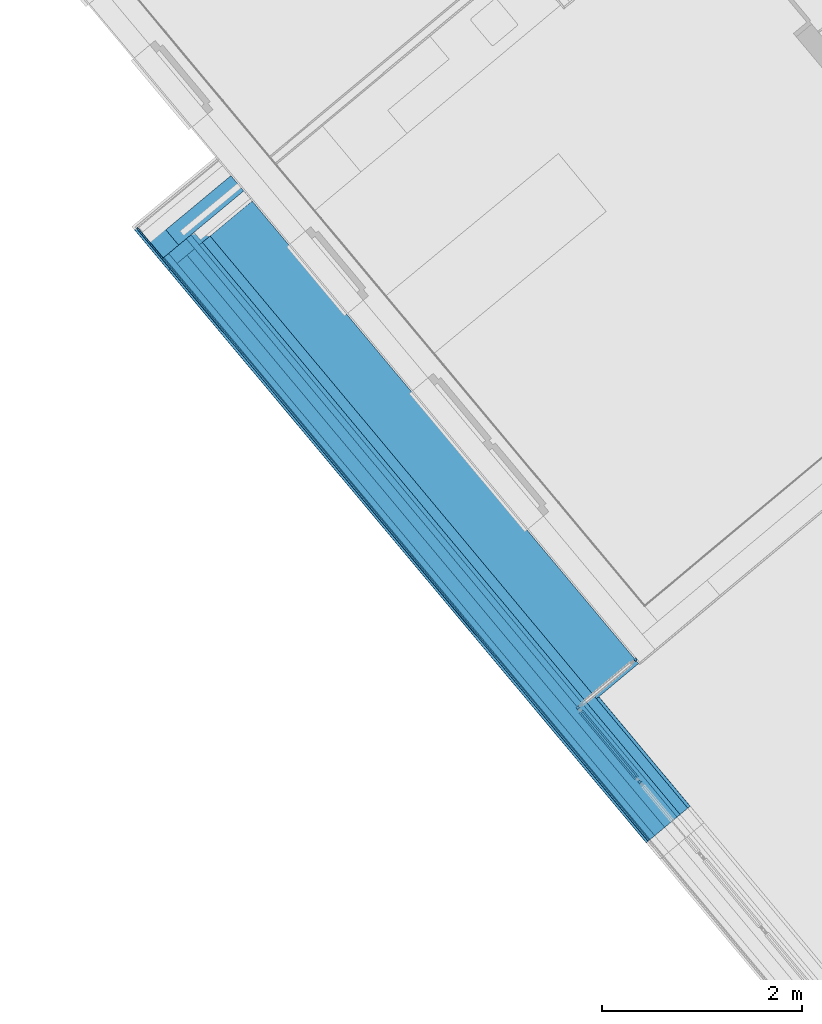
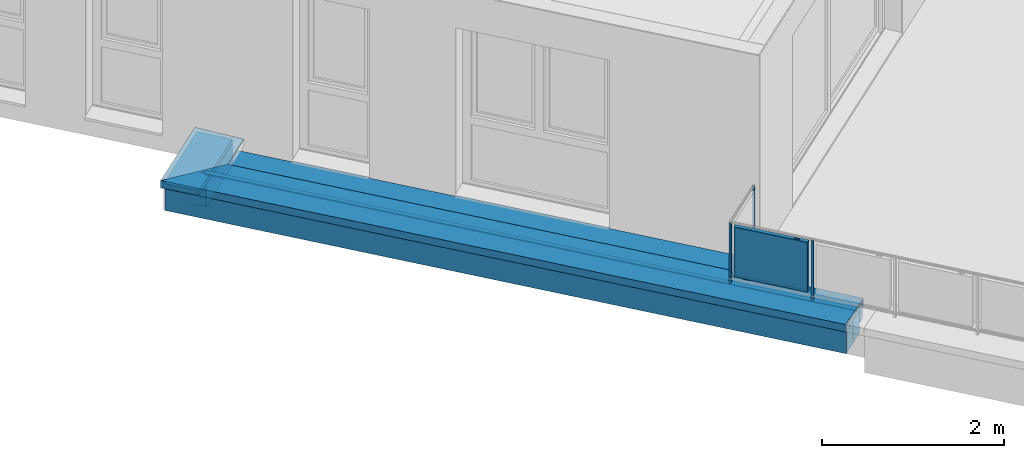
# One storey, part 13 of 58: 18 building element parts, 4 elements without a shape of their own.
"""IFC4 building model written with IfcOpenShell, lengths in metres."""

from ifc_helpers import new_model, entity, si_unit, converted_unit, derived_unit, direction, frame, origin_with_axes, place, context, subcontext, project, spatial, polygons, material, type_object, element, aggregate, save


model = new_model("IFC4")

# Units and contexts
model_context = context("Model", 3, precision=1e-05, world=origin_with_axes(), true_north=direction((0.0, 1.0)))
body_context = subcontext(model_context, "Body", "Model", "MODEL_VIEW")
ifc_project = project(units=[si_unit("LENGTHUNIT", "METRE"), si_unit("AREAUNIT", "SQUARE_METRE"), si_unit("VOLUMEUNIT", "CUBIC_METRE"), converted_unit("PLANEANGLEUNIT", "DEGREE", entity("IfcPlaneAngleMeasure", 0.0174532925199), si_unit("PLANEANGLEUNIT", "RADIAN"), dimensions=[0, 0, 0, 0, 0, 0, 0]), converted_unit("TIMEUNIT", "Year", entity("IfcTimeMeasure", 31556926.0), si_unit("TIMEUNIT", "SECOND"), dimensions=[0, 0, 1, 0, 0, 0, 0]), si_unit("MASSUNIT", "GRAM", prefix="KILO"), si_unit("THERMODYNAMICTEMPERATUREUNIT", "DEGREE_CELSIUS"), si_unit("LUMINOUSINTENSITYUNIT", "LUMEN"), si_unit("ENERGYUNIT", "JOULE", prefix="MEGA"), derived_unit("THERMALCONDUCTANCEUNIT", [(si_unit("POWERUNIT", "WATT"), 1), (si_unit("LENGTHUNIT", "METRE"), -1), (si_unit("THERMODYNAMICTEMPERATUREUNIT", "KELVIN"), -1)]), derived_unit("SPECIFICHEATCAPACITYUNIT", [(si_unit("ENERGYUNIT", "JOULE"), 1), (si_unit("MASSUNIT", "GRAM", prefix="KILO"), -1), (si_unit("THERMODYNAMICTEMPERATUREUNIT", "KELVIN"), -1)]), derived_unit("MASSDENSITYUNIT", [(si_unit("MASSUNIT", "GRAM", prefix="KILO"), 1), (si_unit("VOLUMEUNIT", "CUBIC_METRE"), -1)])], contexts=[model_context])

# Site, building, storey
site_placement = place(None, frame((-0.00153261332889, -0.00661245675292, 0.0), z_axis=(0.0, 0.0, 1.0), x_axis=(1.0, 0.0, 0.0)))
site = spatial("IfcSite", under=ifc_project, at=site_placement, Name="Site", CompositionType="ELEMENT")
building_placement = place(site_placement, origin_with_axes())
building = spatial("IfcBuilding", under=site, at=building_placement, Name="Building", CompositionType="ELEMENT")
storey_placement = place(building_placement, frame((0.0, 0.0, 5.7), z_axis=(0.0, 0.0, 1.0), x_axis=(1.0, 0.0, 0.0)))
storey = spatial("IfcBuildingStorey", under=building, at=storey_placement, Name="DG1", CompositionType="ELEMENT", Elevation=5.7)

# Wall, building element parts
wall_type = type_object("IfcWallType", Name="Bauteil - Attika Terrasse 1.DG 574 x 410", PredefinedType="NOTDEFINED")
wall_1_placement = place(storey_placement, frame((-5.34189117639, 15.0197766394, -0.2), z_axis=(0.0, 0.0, 1.0), x_axis=(-0.768971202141, -0.639283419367, 0.0)))
wall_1 = element("IfcWall", 1, at=wall_1_placement, inside=storey, type_object=wall_type, Name="Wand-003", PredefinedType="NOTDEFINED")
ifc_material_1 = material(Name="Holzwerkstoff")
building_element_part_1_placement = place(wall_1_placement, origin_with_axes())
building_element_part_1 = element("IfcBuildingElementPart", 2, at=building_element_part_1_placement, material=ifc_material_1, Name="Holzwerkstoff", PredefinedType="NOTDEFINED", context=body_context, shape_type="Tessellation", body=[
    polygons([(1.08651749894, -0.239276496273, 0.608570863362), (1.08603229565, 0.330698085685, 0.587938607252), (0.0, 0.330698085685, 0.587938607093), (0.0, -0.239276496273, 0.608570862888), (1.08723952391, -0.239996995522, 0.587938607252), (0.0, 0.329999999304, 0.567947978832), (1.08603529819, 0.33069508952, 0.587852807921), (1.03602023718, 0.330634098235, 0.586106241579), (0.976160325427, 0.330561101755, 0.584015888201), (0.74603542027, 0.330280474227, 0.575979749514), (0.685925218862, 0.330207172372, 0.573880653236), (0.516035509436, 0.329999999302, 0.567947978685), (0.0, 0.160110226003, 0.573880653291), (0.0, 0.100000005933, 0.575979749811), (0.0, -0.130124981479, 0.584015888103), (0.0, -0.189984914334, 0.586106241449), (0.0, -0.239999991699, 0.587852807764), (1.08724252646, -0.239999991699, 0.587852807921), (1.03712153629, -0.189984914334, 0.586106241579), (0.977134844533, -0.130124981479, 0.584015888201), (0.746522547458, 0.100000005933, 0.575979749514), (0.686285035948, 0.160110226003, 0.573880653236)], [[[1, 2, 3, 4]], [[5, 2, 1]], [[6, 3, 2, 7, 8, 9, 10, 11, 12]], [[4, 3, 6, 13, 14, 15, 16, 17]], [[5, 1, 4, 17, 18]], [[2, 5, 18, 7]], [[7, 18, 19, 8]], [[20, 9, 8, 19]], [[9, 20, 21, 10]], [[21, 22, 11, 10]], [[22, 12, 11]], [[12, 22, 13, 6]], [[21, 14, 13, 22]], [[20, 15, 14, 21]], [[20, 19, 16, 15]], [[17, 16, 19, 18]]], closed=True),
])
ifc_material_2 = material(Name="Stahlbeton")
building_element_part_2_placement = place(wall_1_placement, origin_with_axes())
building_element_part_2 = element("IfcBuildingElementPart", 3, at=building_element_part_2_placement, material=ifc_material_2, Name="Stahlbeton", PredefinedType="NOTDEFINED", context=body_context, shape_type="Tessellation", body=[
    polygons([(0.846734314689, 1.82835613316e-09, 0.499999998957), (0.846311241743, 0.199999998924, 0.499999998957), (0.0, 0.199999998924, 0.500000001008), (0.0, 1.82835613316e-09, 0.500000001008), (0.846311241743, 0.199999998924, 0.498822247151), (0.846734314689, 1.82835613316e-09, 0.498822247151), (0.846311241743, 0.199999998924, 0.49100648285), (0.846311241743, 0.199999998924, 0.488695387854), (0.846311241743, 0.199999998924, 0.335), (0.0, 0.199999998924, 0.335000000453), (0.0, 1.82835613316e-09, 0.2), (0.0, 0.199999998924, 0.2), (0.846734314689, 1.82835613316e-09, 0.2), (0.846734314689, 1.82835613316e-09, 0.335), (0.846734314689, 1.82835613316e-09, 0.488695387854), (0.846734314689, 1.82835613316e-09, 0.49100648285), (0.846311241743, 0.199999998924, 0.2)], [[[1, 2, 3, 4]], [[5, 2, 1, 6]], [[2, 5, 7, 8, 9, 10, 3]], [[11, 4, 3, 10, 12]], [[6, 1, 4, 11, 13, 14, 15, 16]], [[5, 6, 16, 7]], [[7, 16, 15, 8]], [[8, 15, 14, 9]], [[9, 17, 12, 10]], [[17, 13, 11, 12]], [[9, 14, 13, 17]]], closed=True),
])
ifc_material_3 = material(Name="Brettschichtholz")
building_element_part_3_placement = place(wall_1_placement, origin_with_axes())
building_element_part_3 = element("IfcBuildingElementPart", 4, at=building_element_part_3_placement, material=ifc_material_3, Name="Brettschichtholz", PredefinedType="NOTDEFINED", context=body_context, shape_type="Tessellation", body=[
    polygons([(1.06139631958, 0.159999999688, 0.559999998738), (1.06131170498, 0.200000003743, 0.559999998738), (0.0, 0.200000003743, 0.559999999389), (0.0, 0.159999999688, 0.559999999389), (1.06131169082, 0.200000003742, 0.519224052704), (1.06152324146, 0.100000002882, 0.559999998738), (1.06201003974, -0.130124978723, 0.559999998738), (1.06213696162, -0.190124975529, 0.559999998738), (1.06218958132, -0.214999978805, 0.559999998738), (1.06218956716, -0.214999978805, 0.519224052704), (1.06131168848, 0.200000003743, 0.511361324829), (1.06131168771, 0.200000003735, 0.50905023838), (1.06131169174, 0.200000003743, 0.499999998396), (0.0, 0.200000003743, 0.500000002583), (0.0, -0.214999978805, 0.499999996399), (0.0, -0.214999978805, 0.559999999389), (0.0, -0.190124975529, 0.559999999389), (0.0, -0.130124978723, 0.559999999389), (0.0, 0.100000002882, 0.559999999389), (1.06218956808, -0.214999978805, 0.499999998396), (1.06218956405, -0.214999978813, 0.50905023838), (1.06218956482, -0.214999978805, 0.511361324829)], [[[1, 2, 3, 4]], [[5, 2, 1, 6, 7, 8, 9, 10]], [[2, 5, 11, 12, 13, 14, 3]], [[15, 16, 17, 18, 19, 4, 3, 14]], [[6, 1, 4, 19]], [[7, 6, 19, 18]], [[8, 7, 18, 17]], [[9, 8, 17, 16]], [[10, 9, 16, 15, 20, 21, 22]], [[5, 10, 22, 11]], [[11, 22, 21, 12]], [[12, 21, 20, 13]], [[14, 13, 20, 15]]], closed=True),
])
aggregate(wall_1, [building_element_part_1, building_element_part_2, building_element_part_3])

wall_2_placement = place(storey_placement, frame((-5.99300548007, 14.4784734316, -0.2), z_axis=(0.0, 0.0, 1.0), x_axis=(0.640908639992, -0.767617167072, 0.0)))
wall_2 = element("IfcWall", 5, at=wall_2_placement, inside=storey, type_object=wall_type, Name="Wand-004", PredefinedType="NOTDEFINED")
ifc_material_4 = material(Name="Stahl")
building_element_part_4_placement = place(wall_2_placement, origin_with_axes())
building_element_part_4 = element("IfcBuildingElementPart", 6, at=building_element_part_4_placement, material=ifc_material_4, Name="Stahl", PredefinedType="NOTDEFINED", context=body_context, shape_type="Tessellation", body=[
    polygons([(-0.240659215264, -0.240150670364, 0.575979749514), (-0.240662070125, -0.241500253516, 0.575979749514), (-0.240662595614, -0.241500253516, 0.584015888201), (-0.240659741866, -0.240151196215, 0.584015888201), (-0.240661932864, -0.241500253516, 0.573880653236), (-0.240659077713, -0.240150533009, 0.573880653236), (-0.238743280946, -0.241500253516, 0.511361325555), (-0.240097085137, -0.241500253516, 0.510007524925), (7.77960617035, -0.241500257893, 0.510007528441), (7.77960617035, -0.241500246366, 0.610006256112), (-0.24201164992, -0.241500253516, 0.610006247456), (-0.203241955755, -0.241500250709, 0.608602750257), (-0.240664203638, -0.241500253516, 0.608602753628), (-0.240664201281, -0.241500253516, 0.608570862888), (-0.240662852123, -0.241500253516, 0.587938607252), (-0.240662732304, -0.241500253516, 0.586106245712), (-0.240661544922, -0.241500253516, 0.567947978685), (-0.240661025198, -0.241500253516, 0.560000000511), (-0.240658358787, -0.241500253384, 0.519224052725), (-0.240657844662, -0.241500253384, 0.511361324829), (-0.240659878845, -0.240151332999, 0.586106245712), (-0.238740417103, -0.24014644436, 0.511361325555), (-0.240654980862, -0.24014644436, 0.511361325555), (-0.240655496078, -0.240146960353, 0.519224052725), (-0.240658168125, -0.240149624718, 0.560000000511), (-0.24065868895, -0.240150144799, 0.567947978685), (-0.240659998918, -0.240151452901, 0.587938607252), (-0.240661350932, -0.240152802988, 0.608570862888), (-0.240661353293, -0.240152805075, 0.608602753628), (-0.203239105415, -0.240152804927, 0.608602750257), (7.7796065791, -0.240152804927, 0.608602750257), (7.77960658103, -0.240146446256, 0.51136132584), (-0.238736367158, -0.238231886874, 0.511361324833), (-0.241051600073, -0.240542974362, 0.509050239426), (7.77960646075, -0.240542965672, 0.50905023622), (7.77960924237, -0.231373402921, 0.518219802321), (7.77960896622, -0.232283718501, 0.519224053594), (7.77960684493, -0.239276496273, 0.608570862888), (7.77978015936, 0.330698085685, 0.587937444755), (7.77978015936, 0.330698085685, 0.491006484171), (7.77978015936, 0.32288233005, 0.498822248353), (7.77978015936, 0.321878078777, 0.497911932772), (7.77978015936, 0.331094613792, 0.488695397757), (7.77978015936, 0.332051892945, 0.489652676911), (7.77978015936, 0.332051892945, 0.589243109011), (0.332755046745, 0.332051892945, 0.589243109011), (-0.202277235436, -0.201849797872, 0.608570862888), (-0.203159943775, -0.202730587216, 0.608602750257), (-0.202356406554, -0.239276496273, 0.608570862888), (-0.232775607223, -0.23228372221, 0.519224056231), (-0.231867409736, -0.233287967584, 0.518219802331), (-0.231863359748, -0.23137340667, 0.518219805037), (0.332675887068, 0.294630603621, 0.589243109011), (0.332752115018, 0.330665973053, 0.587938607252), (0.332752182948, 0.330698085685, 0.587937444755), (0.332752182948, 0.330698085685, 0.498822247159), (0.332752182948, 0.330698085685, 0.491006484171), (0.332752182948, 0.330698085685, 0.586106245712), (0.332752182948, 0.330698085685, 0.584015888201), (0.332752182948, 0.330698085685, 0.575979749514), (0.332752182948, 0.330698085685, 0.573880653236), (0.332752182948, 0.330698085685, 0.567947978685), (0.332752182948, 0.330698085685, 0.559999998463), (0.332752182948, 0.330698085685, 0.519224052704), (0.332752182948, 0.330698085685, 0.511361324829), (0.332752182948, 0.330698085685, 0.50905023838), (0.332752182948, 0.330698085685, 0.499999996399), (0.331398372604, 0.33069808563, 0.49100648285), (0.323566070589, 0.322882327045, 0.498822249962), (0.324474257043, 0.32187807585, 0.497911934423), (0.331394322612, 0.328783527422, 0.49100648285), (0.332748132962, 0.328783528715, 0.491006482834), (0.332750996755, 0.330137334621, 0.489652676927), (0.331795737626, 0.331094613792, 0.488695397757), (0.332755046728, 0.332051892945, 0.489652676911), (0.332755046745, 0.332051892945, 0.49100648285), (0.332755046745, 0.332051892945, 0.498822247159), (0.332755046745, 0.332051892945, 0.499999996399), (0.332755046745, 0.332051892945, 0.50905023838), (0.332755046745, 0.332051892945, 0.511361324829), (0.332755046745, 0.332051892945, 0.519224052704), (0.332755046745, 0.332051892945, 0.559999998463), (0.332755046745, 0.332051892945, 0.567947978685), (0.332755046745, 0.332051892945, 0.573880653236), (0.332755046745, 0.332051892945, 0.575979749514), (0.332755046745, 0.332051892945, 0.584015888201), (0.332755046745, 0.332051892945, 0.586106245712), (0.332755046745, 0.332051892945, 0.587938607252)], [[[1, 2, 3, 4]], [[5, 2, 1, 6]], [[7, 8, 9, 10, 11, 12, 13, 14, 15, 16, 3, 2, 5, 17, 18, 19, 20]], [[3, 16, 21, 4]], [[22, 23, 24, 25, 26, 6, 1, 4, 21, 27, 28, 29, 30, 31, 32]], [[17, 5, 6, 26]], [[8, 7, 22, 33, 34]], [[8, 34, 35, 9]], [[9, 35, 36, 37, 32, 31, 38, 39, 40, 41, 42, 43, 44, 45, 10]], [[46, 47, 48, 11, 10, 45]], [[30, 12, 11, 48]], [[29, 13, 12, 30]], [[14, 13, 29, 28]], [[15, 14, 28, 27]], [[16, 15, 27, 21]], [[18, 17, 26, 25]], [[19, 18, 25, 24]], [[20, 19, 24, 23]], [[7, 20, 23, 22]], [[49, 38, 31, 30]], [[22, 32, 37, 50, 51]], [[33, 22, 51, 52]], [[34, 33, 52, 36, 35]], [[50, 37, 36, 52]], [[53, 54, 55, 39, 38, 49]], [[56, 57, 40, 39, 55, 58, 59, 60, 61, 62, 63, 64, 65, 66, 67]], [[57, 68, 69, 41, 40]], [[69, 70, 42, 41]], [[70, 71, 72, 73, 74, 43, 42]], [[74, 75, 44, 43]], [[76, 77, 78, 79, 80, 81, 82, 83, 84, 85, 86, 87, 88, 46, 45, 44, 75]], [[53, 49, 47, 46]], [[49, 30, 48, 47]], [[51, 50, 52]], [[54, 53, 46, 88, 55]], [[76, 57, 56, 77]], [[58, 55, 88, 87]], [[86, 59, 58, 87]], [[60, 59, 86, 85]], [[61, 60, 85, 84]], [[62, 61, 84, 83]], [[63, 62, 83, 82]], [[64, 63, 82, 81]], [[65, 64, 81, 80]], [[66, 65, 80, 79]], [[67, 66, 79, 78]], [[56, 67, 78, 77]], [[72, 71, 68, 57]], [[70, 69, 68, 71]], [[73, 72, 57, 76, 75]], [[74, 73, 75]]], closed=True),
])
building_element_part_5_placement = place(wall_2_placement, origin_with_axes())
building_element_part_5 = element("IfcBuildingElementPart", 7, at=building_element_part_5_placement, material=ifc_material_1, Name="Holzwerkstoff", PredefinedType="NOTDEFINED", context=body_context, shape_type="Tessellation", body=[
    polygons([(0.33023295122, -0.189984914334, 0.586106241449), (0.33028658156, -0.130124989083, 0.584015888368), (7.77963995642, -0.130124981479, 0.584015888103), (7.77962179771, -0.189984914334, 0.586106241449), (0.331334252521, 0.330634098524, 0.586106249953), (0.331261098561, 0.330561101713, 0.584015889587), (0.330492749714, 0.100000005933, 0.575979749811), (7.77970976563, 0.100000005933, 0.575979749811), (7.77960662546, -0.239999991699, 0.587852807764), (7.77972800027, 0.160110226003, 0.573880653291), (7.77978015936, 0.329999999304, 0.567947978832), (7.77978015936, 0.330698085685, 0.587938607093), (7.77960684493, -0.239276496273, 0.608570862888), (0.33018813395, -0.239999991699, 0.587852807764), (0.330191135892, -0.23999699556, 0.587938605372), (0.331398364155, 0.330698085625, 0.587938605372), (0.330698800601, 0.329999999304, 0.567947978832), (0.330906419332, 0.330207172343, 0.573880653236), (0.330979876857, 0.330280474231, 0.57597974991), (0.330546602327, 0.160110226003, 0.573880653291), (-0.239783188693, -0.239276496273, 0.608570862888)], [[[1, 2, 3, 4]], [[2, 1, 5, 6]], [[2, 7, 8, 3]], [[9, 4, 3, 8, 10, 11, 12, 13]], [[14, 1, 4, 9]], [[1, 14, 15, 16, 5]], [[6, 5, 16, 12, 11, 17, 18, 19]], [[7, 2, 6, 19]], [[7, 20, 10, 8]], [[20, 17, 11, 10]], [[21, 13, 12, 16]], [[15, 14, 9, 13, 21]], [[15, 21, 16]], [[17, 20, 18]], [[20, 7, 19, 18]]], closed=True),
])
ifc_material_5 = material(Name="EPS 1")
building_element_part_6_placement = place(wall_2_placement, origin_with_axes())
building_element_part_6 = element("IfcBuildingElementPart", 8, at=building_element_part_6_placement, material=ifc_material_5, Name="EPS 1", PredefinedType="NOTDEFINED", context=body_context, shape_type="Tessellation", body=[
    polygons([(0.300423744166, 0.200000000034, 0.335000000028), (0.300423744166, 0.200000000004, 0.488695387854), (0.300635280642, 0.300000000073, 0.488695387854), (0.300635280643, 0.300000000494, 0.335000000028), (7.77974010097, 0.200000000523, 0.335000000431), (7.77974010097, 0.2, 0.560000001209), (0.300423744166, 0.199999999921, 0.560000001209), (0.300423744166, 0.199999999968, 0.519224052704), (0.300423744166, 0.199999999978, 0.511361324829), (0.300423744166, 0.19999999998, 0.50905023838), (0.300423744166, 0.199999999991, 0.499999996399), (0.300423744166, 0.199999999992, 0.498822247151), (0.300423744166, 0.200000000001, 0.49100648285), (0.300635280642, 0.300000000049, 0.49100648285), (0.300635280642, 0.299999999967, 0.498822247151), (0.300635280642, 0.299999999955, 0.499999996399), (0.300635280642, 0.29999999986, 0.50905023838), (0.300635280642, 0.299999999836, 0.511361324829), (0.300635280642, 0.299999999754, 0.519224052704), (0.300635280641, 0.299999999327, 0.560000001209), (7.77977043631, 0.30000000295, 0.560000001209), (7.77977043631, 0.300000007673, 0.48869539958), (7.77977043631, 0.300000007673, 0.335000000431)], [[[1, 2, 3, 4]], [[2, 1, 5, 6, 7, 8, 9, 10, 11, 12, 13]], [[2, 13, 14, 3]], [[3, 14, 15, 16, 17, 18, 19, 20, 21, 22, 23, 4]], [[1, 4, 23, 5]], [[6, 5, 23, 22, 21]], [[20, 7, 6, 21]], [[8, 7, 20, 19]], [[9, 8, 19, 18]], [[10, 9, 18, 17]], [[11, 10, 17, 16]], [[12, 11, 16, 15]], [[13, 12, 15, 14]]], closed=True),
])
ifc_material_6 = material(Name="Vollholz")
building_element_part_7_placement = place(wall_2_placement, origin_with_axes())
building_element_part_7 = element("IfcBuildingElementPart", 9, at=building_element_part_7_placement, material=ifc_material_6, Name="Vollholz", PredefinedType="NOTDEFINED", context=body_context, shape_type="Tessellation", body=[
    polygons([(0.160322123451, 0.1, 0.573880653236), (0.160449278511, 0.160110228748, 0.573880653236), (0.160402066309, 0.160063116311, 0.567947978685), (0.160275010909, 0.1, 0.567947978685), (0.100211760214, 0.100000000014, 0.575979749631), (7.77972800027, 0.160110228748, 0.573880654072), (7.77972796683, 0.16, 0.560000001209), (0.160338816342, 0.16, 0.560000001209), (0.160211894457, 0.1, 0.560000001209), (7.77970976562, 0.1, 0.560000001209), (7.77970976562, 0.1, 0.575979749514)], [[[1, 2, 3, 4]], [[5, 2, 1]], [[3, 2, 6, 7, 8]], [[4, 3, 8, 9]], [[5, 1, 4, 9, 10, 11]], [[2, 5, 11, 6]], [[10, 7, 6, 11]], [[9, 8, 7, 10]]], closed=True),
])
building_element_part_8_placement = place(wall_2_placement, origin_with_axes())
building_element_part_8 = element("IfcBuildingElementPart", 10, at=building_element_part_8_placement, material=ifc_material_2, Name="Stahlbeton", PredefinedType="NOTDEFINED", context=body_context, shape_type="Tessellation", body=[
    polygons([(0.20042351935, 0.199999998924, 0.498822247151), (0.20042351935, 0.199999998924, 0.500000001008), (7.77974010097, 0.199999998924, 0.500000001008), (7.77974010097, 0.200000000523, 0.335000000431), (0.20042351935, 0.199999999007, 0.335), (0.20042351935, 0.199999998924, 0.488695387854), (0.20042351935, 0.199999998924, 0.49100648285), (0.200000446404, 1.82835613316e-09, 0.500000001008), (0.200000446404, 1.82835613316e-09, 0.498822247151), (7.77967943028, 1.82835080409e-09, 0.500000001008), (7.77974010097, 0.200000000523, 0.2), (7.77967943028, 1.82835258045e-09, 0.2), (0.20042351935, 0.199999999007, 0.2), (0.200000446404, 1.82835613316e-09, 0.488695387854), (0.200000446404, 1.82835613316e-09, 0.335), (0.200000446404, 1.82835613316e-09, 0.49100648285), (0.200000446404, 1.82835613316e-09, 0.2)], [[[1, 2, 3, 4, 5, 6, 7]], [[8, 2, 1, 9]], [[2, 8, 10, 3]], [[11, 4, 3, 10, 12]], [[13, 5, 4, 11]], [[14, 6, 5, 15]], [[16, 7, 6, 14]], [[9, 1, 7, 16]], [[8, 9, 16, 14, 15, 17, 12, 10]], [[17, 13, 11, 12]], [[15, 5, 13, 17]]], closed=True),
])
building_element_part_9_placement = place(wall_2_placement, origin_with_axes())
building_element_part_9 = element("IfcBuildingElementPart", 11, at=building_element_part_9_placement, material=ifc_material_5, Name="EPS 1", PredefinedType="NOTDEFINED", context=body_context, shape_type="Tessellation", body=[
    polygons([(-2.40415687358e-10, -2.39910313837e-10, 0.498822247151), (-2.40415687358e-10, -2.39910313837e-10, 0.499999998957), (7.77967943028, -2.39913866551e-10, 0.499999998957), (7.77967943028, -2.39912978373e-10, 0.2), (-2.40417463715e-10, -2.39910313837e-10, 0.2), (-2.40415687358e-10, -2.39910313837e-10, 0.335), (-2.40415687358e-10, -2.39910313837e-10, 0.488695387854), (-2.40415687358e-10, -2.39910313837e-10, 0.49100648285), (-0.000423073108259, -0.19999996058, 0.499999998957), (-0.000423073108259, -0.19999996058, 0.498822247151), (7.77961875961, -0.19999996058, 0.499999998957), (7.77961875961, -0.19999996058, 0.2), (-0.000423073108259, -0.19999996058, 0.2), (-0.000423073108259, -0.19999996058, 0.335), (-0.000423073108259, -0.19999996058, 0.488695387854), (-0.000423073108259, -0.19999996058, 0.49100648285)], [[[1, 2, 3, 4, 5, 6, 7, 8]], [[9, 2, 1, 10]], [[2, 9, 11, 3]], [[12, 4, 3, 11]], [[13, 5, 4, 12]], [[14, 6, 5, 13]], [[15, 7, 6, 14]], [[16, 8, 7, 15]], [[10, 1, 8, 16]], [[9, 10, 16, 15, 14, 13, 12, 11]]], closed=True),
])
building_element_part_10_placement = place(wall_2_placement, origin_with_axes())
building_element_part_10 = element("IfcBuildingElementPart", 12, at=building_element_part_10_placement, material=ifc_material_6, Name="Vollholz", PredefinedType="NOTDEFINED", context=body_context, shape_type="Tessellation", body=[
    polygons([(-0.130527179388, -0.189996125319, 0.584015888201), (-0.130400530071, -0.130124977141, 0.584015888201), (-0.130400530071, -0.130124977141, 0.575979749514), (-0.130527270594, -0.190039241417, 0.575979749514), (-0.190387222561, -0.189984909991, 0.586106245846), (7.77963995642, -0.130124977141, 0.584015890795), (7.77963995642, -0.130124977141, 0.560000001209), (-0.130400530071, -0.130124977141, 0.560000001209), (-0.130400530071, -0.130124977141, 0.567947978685), (-0.130400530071, -0.130124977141, 0.573880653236), (-0.130527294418, -0.190050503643, 0.573880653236), (-0.130527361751, -0.190082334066, 0.567947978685), (-0.130527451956, -0.190124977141, 0.560000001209), (7.77962175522, -0.190124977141, 0.560000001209), (7.77962179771, -0.189984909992, 0.586106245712)], [[[1, 2, 3, 4]], [[5, 2, 1]], [[3, 2, 6, 7, 8, 9, 10]], [[4, 3, 10, 11]], [[5, 1, 4, 11, 12, 13, 14, 15]], [[2, 5, 15, 6]], [[14, 7, 6, 15]], [[13, 8, 7, 14]], [[12, 9, 8, 13]], [[11, 10, 9, 12]]], closed=True),
])
ifc_material_7 = material(Name="Zementputz")
building_element_part_11_placement = place(wall_2_placement, origin_with_axes())
building_element_part_11 = element("IfcBuildingElementPart", 13, at=building_element_part_11_placement, material=ifc_material_7, Name="Zementputz", PredefinedType="NOTDEFINED", context=body_context, shape_type="Tessellation", body=[
    polygons([(-0.20042348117, -0.199999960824, 0.498822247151), (-0.20042348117, -0.199999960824, 0.499999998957), (7.77961875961, -0.199999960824, 0.499999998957), (7.77961875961, -0.199999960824, 0.2), (-0.20042348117, -0.199999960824, 0.2), (-0.20042348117, -0.199999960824, 0.335), (-0.20042348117, -0.199999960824, 0.488695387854), (-0.20042348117, -0.199999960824, 0.49100648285), (-0.200455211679, -0.214999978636, 0.499999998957), (-0.200455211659, -0.21499996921, 0.498822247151), (7.7796142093, -0.21499996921, 0.499999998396), (7.7796142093, -0.21499996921, 0.2), (-0.200455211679, -0.214999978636, 0.2), (-0.200455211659, -0.21499996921, 0.335), (-0.200455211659, -0.21499996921, 0.488695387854), (-0.200455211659, -0.21499996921, 0.49100648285)], [[[1, 2, 3, 4, 5, 6, 7, 8]], [[9, 2, 1, 10]], [[2, 9, 11, 3]], [[12, 4, 3, 11]], [[13, 5, 4, 12]], [[14, 6, 5, 13]], [[15, 7, 6, 14]], [[16, 8, 7, 15]], [[10, 1, 8, 16]], [[9, 10, 16, 15, 14, 13, 12, 11]]], closed=True),
])
building_element_part_12_placement = place(wall_2_placement, origin_with_axes())
building_element_part_12 = element("IfcBuildingElementPart", 14, at=building_element_part_12_placement, material=ifc_material_3, Name="Brettschichtholz", PredefinedType="NOTDEFINED", context=body_context, shape_type="Tessellation", body=[
    polygons([(0.199598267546, -0.190124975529, 0.559999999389), (0.199545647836, -0.214999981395, 0.559999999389), (7.7796142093, -0.214999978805, 0.559999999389), (7.77962175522, -0.190124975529, 0.559999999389), (0.199545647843, -0.214999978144, 0.519224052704), (0.199725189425, -0.130124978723, 0.559999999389), (0.200211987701, 0.100000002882, 0.559999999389), (0.20033890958, 0.159999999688, 0.559999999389), (0.200423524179, 0.200000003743, 0.559999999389), (0.200423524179, 0.200000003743, 0.519224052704), (0.199545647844, -0.214999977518, 0.511361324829), (0.199545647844, -0.214999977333, 0.50905023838), (0.199545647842, -0.214999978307, 0.499999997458), (7.7796142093, -0.21499996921, 0.499999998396), (7.7796142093, -0.21499996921, 0.50905023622), (7.77974010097, 0.200000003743, 0.500000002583), (7.77974010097, 0.200000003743, 0.559999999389), (7.77972796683, 0.159999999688, 0.559999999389), (7.77970976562, 0.100000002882, 0.559999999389), (7.77963995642, -0.130124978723, 0.559999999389), (0.200423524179, 0.200000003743, 0.500000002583), (0.200423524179, 0.200000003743, 0.50905023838), (0.200423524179, 0.200000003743, 0.511361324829)], [[[1, 2, 3, 4]], [[5, 2, 1, 6, 7, 8, 9, 10]], [[11, 12, 13, 14, 15, 3, 2, 5]], [[15, 14, 16, 17, 18, 19, 20, 4, 3]], [[6, 1, 4, 20]], [[7, 6, 20, 19]], [[8, 7, 19, 18]], [[9, 8, 18, 17]], [[21, 22, 23, 10, 9, 17, 16]], [[11, 5, 10, 23]], [[12, 11, 23, 22]], [[21, 13, 12, 22]], [[13, 21, 16, 14]]], closed=True),
])
aggregate(wall_2, [building_element_part_4, building_element_part_5, building_element_part_6, building_element_part_7, building_element_part_8, building_element_part_9, building_element_part_10, building_element_part_11, building_element_part_12])

# Covering, building element part
covering_type = type_object("IfcCoveringType", Name="Balkon vor Terrasse Kies 220", PredefinedType="NOTDEFINED")
covering_placement = place(storey_placement, frame((-1.76593456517, 9.72776171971, 0.0), z_axis=(0.0, 0.0, 1.0), x_axis=(1.0, 0.0, 0.0)))
covering = element("IfcCovering", 15, at=covering_placement, inside=storey, type_object=covering_type, Name="Decke-005", PredefinedType="NOTDEFINED")
ifc_material_8 = material(Name="Kies")
building_element_part_13_placement = place(covering_placement, origin_with_axes())
building_element_part_13 = element("IfcBuildingElementPart", 16, at=building_element_part_13_placement, material=ifc_material_8, Name="Kies", PredefinedType="NOTDEFINED", context=body_context, shape_type="Tessellation", body=[
    polygons([(0.498355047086, 0.416092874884, 0.15), (0.498355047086, 0.416092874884, 0.22), (0.0, 0.0, 0.22), (0.0, 0.0, 0.15), (-0.617608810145, 1.75161976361, 0.22), (-0.617608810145, 1.75161976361, 0.15), (-0.606098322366, 1.76123790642, 0.22), (-1.7602754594, 3.14249643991, 0.22), (-1.77178594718, 3.1328782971, 0.22), (-2.41941680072, 3.90792886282, 0.22), (-2.40790631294, 3.91754700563, 0.22), (-2.98499488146, 4.60817627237, 0.22), (-2.99650536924, 4.59855812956, 0.22), (-3.44771470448, 5.13854174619, 0.22), (-3.94509461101, 4.72504524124, 0.22), (-3.94509461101, 4.72504524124, 0.15), (-3.44771470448, 5.13854174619, 0.15), (-2.99650536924, 4.59855812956, 0.15), (-2.98499488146, 4.60817627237, 0.15), (-2.40790631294, 3.91754700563, 0.15), (-2.41941680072, 3.90792886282, 0.15), (-1.77178594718, 3.1328782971, 0.15), (-1.7602754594, 3.14249643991, 0.15), (-0.606098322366, 1.76123790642, 0.15)], [[[1, 2, 3, 4]], [[5, 2, 1, 6]], [[5, 7, 8, 9, 10, 11, 12, 13, 14, 15, 3, 2]], [[16, 4, 3, 15]], [[6, 1, 4, 16, 17, 18, 19, 20, 21, 22, 23, 24]], [[24, 7, 5, 6]], [[7, 24, 23, 8]], [[9, 8, 23, 22]], [[10, 9, 22, 21]], [[20, 11, 10, 21]], [[11, 20, 19, 12]], [[13, 12, 19, 18]], [[14, 13, 18, 17]], [[14, 17, 16, 15]]], closed=True),
])
aggregate(covering, [building_element_part_13])

# Railing, building element parts
railing_type = type_object("IfcRailingType", Name="Geländerart", PredefinedType="NOTDEFINED")
railing_placement = place(storey_placement, frame((-1.26757951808, 10.1438545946, 0.38), z_axis=(0.0, 0.0, 1.0), x_axis=(1.0, 0.0, 0.0)))
railing = element("IfcRailing", 17, at=railing_placement, inside=storey, type_object=railing_type, Name="Geländer - 001", PredefinedType="NOTDEFINED")
ifc_material_9 = material(Name="Aluminium")
building_element_part_14_placement = place(railing_placement, origin_with_axes())
building_element_part_14 = element("IfcBuildingElementPart", 18, at=building_element_part_14_placement, material=ifc_material_9, Name="Aluminium", PredefinedType="NOTDEFINED", context=body_context, shape_type="Tessellation", body=[
    polygons([(-0.049652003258, 0.0399647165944, -0.3), (-0.0336292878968, 0.0207742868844, -0.3), (-0.0336292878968, 0.0207742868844, 0.82), (-0.049652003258, 0.0399647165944, 0.82), (-0.030461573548, 0.0559874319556, -0.3), (-0.0144388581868, 0.0367970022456, -0.3), (-0.0144388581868, 0.0367970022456, 0.82), (-0.030461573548, 0.0559874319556, 0.82)], [[[1, 2, 3, 4]], [[1, 5, 6, 2]], [[2, 6, 7, 3]], [[4, 3, 7, 8]], [[5, 1, 4, 8]], [[6, 5, 8, 7]]], closed=True),
])
building_element_part_15_placement = place(railing_placement, origin_with_axes())
building_element_part_15 = element("IfcBuildingElementPart", 19, at=building_element_part_15_placement, material=ifc_material_9, Name="Aluminium", PredefinedType="NOTDEFINED", context=body_context, shape_type="Tessellation", body=[
    polygons([(-0.624768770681, -0.440219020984, -0.3), (-0.60874605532, -0.459409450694, -0.3), (-0.60874605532, -0.459409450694, 0.82), (-0.624768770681, -0.440219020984, 0.82), (-0.605578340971, -0.424196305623, -0.3), (-0.58955562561, -0.443386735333, -0.3), (-0.58955562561, -0.443386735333, 0.82), (-0.605578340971, -0.424196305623, 0.82)], [[[1, 2, 3, 4]], [[1, 5, 6, 2]], [[2, 6, 7, 3]], [[4, 3, 7, 8]], [[5, 1, 4, 8]], [[6, 5, 8, 7]]], closed=True),
])
ifc_material_10 = material(Name="Profilit")
building_element_part_16_placement = place(railing_placement, origin_with_axes())
building_element_part_16 = element("IfcBuildingElementPart", 20, at=building_element_part_16_placement, material=ifc_material_10, Name="Profilit", PredefinedType="NOTDEFINED", context=body_context, shape_type="Tessellation", body=[
    polygons([(-0.0230407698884, -1.12580306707, 0.135), (-0.557826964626, -0.485288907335, 0.135), (-0.557826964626, -0.485288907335, 0.775), (-0.0230407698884, -1.12580306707, 0.775), (-0.573179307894, -0.498107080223, 0.135), (-0.0383931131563, -1.13862123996, 0.135), (-0.573179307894, -0.498107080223, 0.775), (-0.0383931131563, -1.13862123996, 0.775)], [[[1, 2, 3, 4]], [[5, 2, 1, 6]], [[7, 3, 2, 5]], [[4, 3, 7, 8]], [[1, 4, 8, 6]], [[7, 5, 6, 8]]], closed=True),
])
building_element_part_17_placement = place(railing_placement, origin_with_axes())
building_element_part_17 = element("IfcBuildingElementPart", 21, at=building_element_part_17_placement, material=ifc_material_9, Name="Aluminium", PredefinedType="NOTDEFINED", context=body_context, shape_type="Tessellation", body=[
    polygons([(-0.509106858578, -0.555343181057, 0.12), (-0.464243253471, -0.609076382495, 0.12), (-0.464243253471, -0.609076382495, 0.095), (-0.509106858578, -0.555343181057, 0.095), (-0.512944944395, -0.558547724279, 0.12), (-0.468081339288, -0.612280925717, 0.12), (-0.468081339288, -0.612280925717, 0.095), (-0.512944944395, -0.558547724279, 0.095)], [[[1, 2, 3, 4]], [[5, 6, 2, 1]], [[2, 6, 7, 3]], [[4, 3, 7, 8]], [[1, 4, 8, 5]], [[8, 7, 6, 5]]], closed=True),
    polygons([(-0.0832751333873, -1.06536242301, 0.79), (-0.128138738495, -1.01162922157, 0.79), (-0.128138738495, -1.01162922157, 0.795), (-0.0832751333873, -1.06536242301, 0.795), (-0.0871132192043, -1.06856696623, 0.79), (-0.131976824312, -1.0148337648, 0.79), (-0.131976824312, -1.0148337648, 0.795), (-0.0871132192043, -1.06856696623, 0.795)], [[[1, 2, 3, 4]], [[5, 6, 2, 1]], [[2, 6, 7, 3]], [[4, 3, 7, 8]], [[1, 4, 8, 5]], [[8, 7, 6, 5]]], closed=True),
    polygons([(-0.594307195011, -0.496206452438, 0.12), (-0.555926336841, -0.464161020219, 0.12), (-0.00191288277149, -1.12770369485, 0.12), (-0.0402937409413, -1.15974912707, 0.12), (-0.581489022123, -0.511558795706, 0.14), (-0.569974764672, -0.50194516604, 0.14), (-0.573179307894, -0.498107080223, 0.135), (-0.557826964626, -0.485288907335, 0.135), (-0.554622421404, -0.489126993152, 0.14), (-0.543108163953, -0.479513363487, 0.14), (-0.0147310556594, -1.11235135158, 0.14), (-0.0147310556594, -1.11235135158, 0.77), (-0.543108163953, -0.479513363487, 0.77), (-0.543108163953, -0.479513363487, 0.14), (-0.555926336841, -0.464161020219, 0.12), (-0.555926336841, -0.464161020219, 0.79), (-0.00191288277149, -1.12770369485, 0.79), (-0.0402937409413, -1.15974912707, 0.79), (-0.594307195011, -0.496206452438, 0.79), (-0.594307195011, -0.496206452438, 0.12), (-0.581489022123, -0.511558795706, 0.14), (-0.581489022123, -0.511558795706, 0.77), (-0.0531119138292, -1.1443967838, 0.77), (-0.0531119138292, -1.1443967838, 0.14), (-0.0415976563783, -1.13478315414, 0.14), (-0.0415976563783, -1.13478315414, 0.77), (-0.569974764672, -0.50194516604, 0.77), (-0.569974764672, -0.50194516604, 0.14), (-0.573179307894, -0.498107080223, 0.135), (-0.573179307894, -0.498107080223, 0.775), (-0.0383931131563, -1.13862123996, 0.775), (-0.0383931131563, -1.13862123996, 0.135), (-0.0230407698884, -1.12580306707, 0.135), (-0.0230407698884, -1.12580306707, 0.775), (-0.557826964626, -0.485288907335, 0.775), (-0.557826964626, -0.485288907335, 0.135), (-0.554622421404, -0.489126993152, 0.14), (-0.554622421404, -0.489126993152, 0.77), (-0.0262453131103, -1.12196498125, 0.77), (-0.0262453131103, -1.12196498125, 0.14)], [[[1, 2, 3, 4]], [[1, 5, 6, 7, 8, 9, 10, 2]], [[2, 10, 11, 12, 13, 14, 15, 16, 17, 3]], [[4, 3, 17, 18]], [[5, 1, 4, 18, 19, 20, 21, 22, 23, 24]], [[6, 5, 24, 25]], [[7, 6, 25, 26, 27, 28, 29, 30, 31, 32]], [[8, 7, 32, 33]], [[9, 8, 33, 34, 35, 36, 37, 38, 39, 40]], [[10, 9, 40, 11]], [[11, 40, 39, 12]], [[12, 39, 38, 13]], [[13, 38, 37, 14]], [[20, 15, 14, 37, 36, 29, 28, 21]], [[19, 16, 15, 20]], [[18, 17, 16, 19]], [[27, 22, 21, 28]], [[26, 23, 22, 27]], [[25, 24, 23, 26]], [[35, 30, 29, 36]], [[34, 31, 30, 35]], [[33, 32, 31, 34]]], closed=True),
])
building_element_part_18_placement = place(railing_placement, origin_with_axes())
building_element_part_18 = element("IfcBuildingElementPart", 22, at=building_element_part_18_placement, material=ifc_material_9, Name="Aluminium", PredefinedType="NOTDEFINED", context=body_context, shape_type="Tessellation", body=[
    polygons([(0.00935826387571, -1.19971384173, -0.3), (0.0285486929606, -1.18369112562, -0.3), (0.0285486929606, -1.18369112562, 0.82), (0.00935826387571, -1.19971384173, 0.82), (-0.00666445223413, -1.18052341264, -0.3), (0.0125259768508, -1.16450069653, -0.3), (0.0125259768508, -1.16450069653, 0.82), (-0.00666445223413, -1.18052341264, 0.82)], [[[1, 2, 3, 4]], [[1, 5, 6, 2]], [[2, 6, 7, 3]], [[4, 3, 7, 8]], [[5, 1, 4, 8]], [[6, 5, 8, 7]]], closed=True),
])
aggregate(railing, [building_element_part_14, building_element_part_15, building_element_part_16, building_element_part_17, building_element_part_18])

save(model, "model.ifc")
